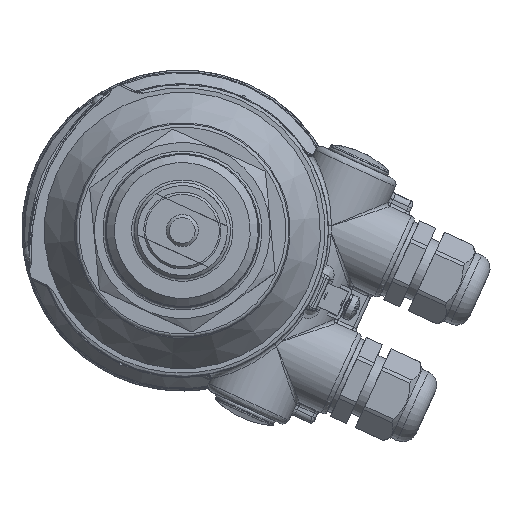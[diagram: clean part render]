
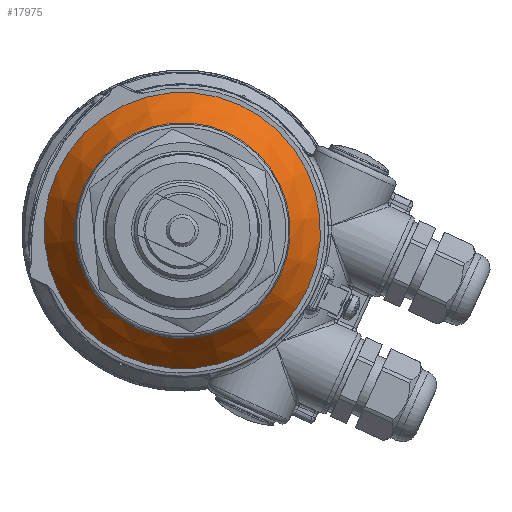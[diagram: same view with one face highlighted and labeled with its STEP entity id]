
A CAD part, front view. The second image highlights one B-rep face of the part: STEP entity #17975.
In plain terms, the highlighted conical face has half-angle 35 degrees and reference radius 38.151 mm.
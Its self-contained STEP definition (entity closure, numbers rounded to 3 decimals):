
#656=CONICAL_SURFACE('',#19414,38.151,35.);
#1297=FACE_BOUND('',#4218,.T.);
#2970=FACE_OUTER_BOUND('',#4217,.T.);
#4217=EDGE_LOOP('',(#13601));
#4218=EDGE_LOOP('',(#13602));
#7058=CIRCLE('',#19411,43.053);
#7059=CIRCLE('',#19413,33.612);
#8352=VERTEX_POINT('',#35832);
#8353=VERTEX_POINT('',#35835);
#10297=EDGE_CURVE('',#8352,#8352,#7058,.T.);
#10298=EDGE_CURVE('',#8353,#8353,#7059,.T.);
#13601=ORIENTED_EDGE('',*,*,#10297,.F.);
#13602=ORIENTED_EDGE('',*,*,#10298,.F.);
#17975=ADVANCED_FACE('',(#2970,#1297),#656,.T.);
#19411=AXIS2_PLACEMENT_3D('',#35833,#22228,#22229);
#19413=AXIS2_PLACEMENT_3D('',#35836,#22232,#22233);
#19414=AXIS2_PLACEMENT_3D('',#35837,#22234,#22235);
#22228=DIRECTION('center_axis',(0.,1.,0.));
#22229=DIRECTION('ref_axis',(1.,0.,0.));
#22232=DIRECTION('center_axis',(0.,-1.,0.));
#22233=DIRECTION('ref_axis',(1.,0.,0.));
#22234=DIRECTION('center_axis',(0.,1.,0.));
#22235=DIRECTION('ref_axis',(-1.,0.,0.));
#35832=CARTESIAN_POINT('',(-43.053,18.5,0.));
#35833=CARTESIAN_POINT('Origin',(0.,18.5,0.));
#35835=CARTESIAN_POINT('',(-33.612,5.017,0.));
#35836=CARTESIAN_POINT('Origin',(0.,5.017,0.));
#35837=CARTESIAN_POINT('Origin',(0.,11.5,0.));
